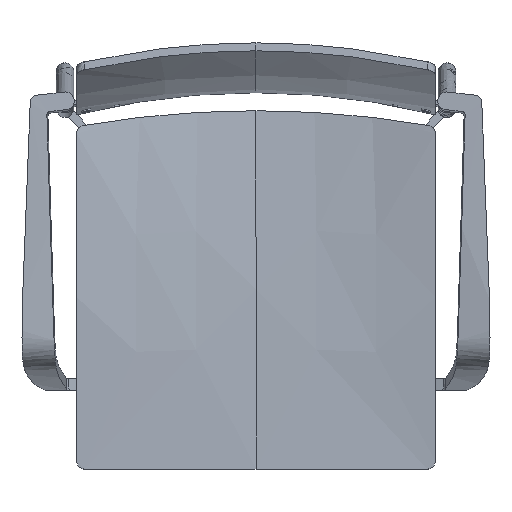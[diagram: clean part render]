
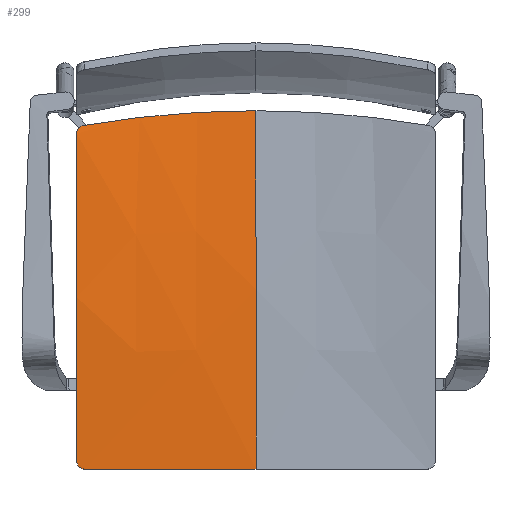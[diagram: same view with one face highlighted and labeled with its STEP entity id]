
A CAD part, top view. The second image highlights one B-rep face of the part: STEP entity #299.
In plain terms, the highlighted free-form (B-spline) face has degree [3, 3] with [6, 6] control points.
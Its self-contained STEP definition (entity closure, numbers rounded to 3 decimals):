
#132=B_SPLINE_SURFACE_WITH_KNOTS('',3,3,((#6712,#6713,#6714,#6715,#6716,
#6717),(#6718,#6719,#6720,#6721,#6722,#6723),(#6724,#6725,#6726,#6727,#6728,
#6729),(#6730,#6731,#6732,#6733,#6734,#6735),(#6736,#6737,#6738,#6739,#6740,
#6741),(#6742,#6743,#6744,#6745,#6746,#6747)),.UNSPECIFIED.,.F.,.F.,.F.,
(4,1,1,4),(4,1,1,4),(0.,145.508,291.016,436.96),
(224.697,299.522,374.346,449.395),
 .UNSPECIFIED.);
#299=ADVANCED_FACE('',(#431),#132,.T.);
#431=FACE_OUTER_BOUND('',#563,.T.);
#563=EDGE_LOOP('',(#1088,#1089,#1090,#1091,#1092,#1093));
#1088=ORIENTED_EDGE('',*,*,#1418,.T.);
#1089=ORIENTED_EDGE('',*,*,#1411,.F.);
#1090=ORIENTED_EDGE('',*,*,#1414,.T.);
#1091=ORIENTED_EDGE('',*,*,#1425,.T.);
#1092=ORIENTED_EDGE('',*,*,#1417,.T.);
#1093=ORIENTED_EDGE('',*,*,#1427,.T.);
#1411=EDGE_CURVE('',#1914,#1915,#1631,.T.);
#1414=EDGE_CURVE('',#1914,#1921,#1734,.T.);
#1417=EDGE_CURVE('',#1919,#1918,#1736,.T.);
#1418=EDGE_CURVE('',#1922,#1915,#1634,.T.);
#1425=EDGE_CURVE('',#1921,#1919,#1641,.T.);
#1427=EDGE_CURVE('',#1918,#1922,#1643,.T.);
#1631=B_SPLINE_CURVE_WITH_KNOTS('',3,(#6896,#6897,#6898,#6899,#6900,#6901),
 .UNSPECIFIED.,.F.,.F.,(4,1,1,4),(-436.523,-291.016,-145.508,
0.),.UNSPECIFIED.);
#1634=B_SPLINE_CURVE_WITH_KNOTS('',1,(#6918,#6919),.UNSPECIFIED.,.F.,.F.,
(2,2),(-435.,-222.5),.UNSPECIFIED.);
#1641=B_SPLINE_CURVE_WITH_KNOTS('',3,(#6950,#6951,#6952,#6953,#6954,#6955,
#6956,#6957,#6958,#6959,#6960,#6961,#6962,#6963,#6964,#6965,#6966,#6967,
#6968,#6969),.UNSPECIFIED.,.F.,.F.,(4,1,1,1,1,1,1,1,1,1,1,1,1,1,1,1,1,4),
(-14.341,-13.544,-12.725,-11.889,
-11.037,-10.171,-9.297,-8.416,
-7.533,-6.651,-5.773,-4.903,
-4.045,-3.2,-2.371,-1.56,
-0.77,0.),.UNSPECIFIED.);
#1643=B_SPLINE_CURVE_WITH_KNOTS('',3,(#6990,#6991,#6992,#6993,#6994,#6995,
#6996,#6997,#6998,#6999,#7000,#7001,#7002,#7003,#7004,#7005,#7006,#7007,
#7008,#7009),.UNSPECIFIED.,.F.,.F.,(4,1,1,1,1,1,1,1,1,1,1,1,1,1,1,1,1,4),
(0.,0.846,1.719,2.616,3.536,
4.474,5.428,6.393,7.365,8.339,
9.311,10.276,11.229,12.168,13.087,
13.985,14.857,15.703),.UNSPECIFIED.);
#1734=(
BOUNDED_CURVE()
B_SPLINE_CURVE(2,(#6907,#6908,#6909),.UNSPECIFIED.,.F.,.F.)
B_SPLINE_CURVE_WITH_KNOTS((3,3),(-226.906,-8.747),
 .UNSPECIFIED.)
CURVE()
GEOMETRIC_REPRESENTATION_ITEM()
RATIONAL_B_SPLINE_CURVE((1.,0.986,1.))
REPRESENTATION_ITEM('')
);
#1736=(
BOUNDED_CURVE()
B_SPLINE_CURVE(2,(#6915,#6916,#6917),.UNSPECIFIED.,.F.,.F.)
B_SPLINE_CURVE_WITH_KNOTS((3,3),(-417.08,-10.001),
 .UNSPECIFIED.)
CURVE()
GEOMETRIC_REPRESENTATION_ITEM()
RATIONAL_B_SPLINE_CURVE((1.,0.999,1.))
REPRESENTATION_ITEM('')
);
#1914=VERTEX_POINT('',#6872);
#1915=VERTEX_POINT('',#6873);
#1918=VERTEX_POINT('',#6876);
#1919=VERTEX_POINT('',#6877);
#1921=VERTEX_POINT('',#6879);
#1922=VERTEX_POINT('',#6880);
#6712=CARTESIAN_POINT('',(0.,-257.5,438.92));
#6713=CARTESIAN_POINT('',(-24.722,-257.5,438.92));
#6714=CARTESIAN_POINT('',(-74.167,-257.5,438.92));
#6715=CARTESIAN_POINT('',(-148.408,-257.5,438.92));
#6716=CARTESIAN_POINT('',(-197.926,-257.5,438.92));
#6717=CARTESIAN_POINT('',(-222.723,-257.5,438.92));
#6718=CARTESIAN_POINT('',(0.,-207.832,436.162));
#6719=CARTESIAN_POINT('',(-24.777,-207.832,436.162));
#6720=CARTESIAN_POINT('',(-74.33,-208.011,436.425));
#6721=CARTESIAN_POINT('',(-148.624,-208.818,437.601));
#6722=CARTESIAN_POINT('',(-198.035,-209.708,438.899));
#6723=CARTESIAN_POINT('',(-222.722,-210.238,439.672));
#6724=CARTESIAN_POINT('',(0.,-108.594,428.907));
#6725=CARTESIAN_POINT('',(-24.886,-108.594,428.907));
#6726=CARTESIAN_POINT('',(-74.656,-109.124,429.702));
#6727=CARTESIAN_POINT('',(-149.058,-111.501,433.268));
#6728=CARTESIAN_POINT('',(-198.254,-114.126,437.2));
#6729=CARTESIAN_POINT('',(-222.72,-115.691,439.543));
#6730=CARTESIAN_POINT('',(0.,39.995,412.796));
#6731=CARTESIAN_POINT('',(-25.049,39.995,412.796));
#6732=CARTESIAN_POINT('',(-75.146,38.966,414.415));
#6733=CARTESIAN_POINT('',(-149.709,34.355,421.67));
#6734=CARTESIAN_POINT('',(-198.582,29.265,429.675));
#6735=CARTESIAN_POINT('',(-222.717,26.231,434.444));
#6736=CARTESIAN_POINT('',(0.,138.607,398.59));
#6737=CARTESIAN_POINT('',(-25.158,138.607,398.59));
#6738=CARTESIAN_POINT('',(-75.473,137.266,400.772));
#6739=CARTESIAN_POINT('',(-150.143,131.254,410.553));
#6740=CARTESIAN_POINT('',(-198.801,124.619,421.343));
#6741=CARTESIAN_POINT('',(-222.715,120.665,427.774));
#6742=CARTESIAN_POINT('',(0.,187.851,390.612));
#6743=CARTESIAN_POINT('',(-25.213,187.851,390.612));
#6744=CARTESIAN_POINT('',(-75.637,186.359,393.079));
#6745=CARTESIAN_POINT('',(-150.361,179.667,404.14));
#6746=CARTESIAN_POINT('',(-198.911,172.284,416.343));
#6747=CARTESIAN_POINT('',(-222.714,167.884,423.616));
#6872=CARTESIAN_POINT('',(0.,187.409,390.683));
#6873=CARTESIAN_POINT('',(0.,-257.5,438.92));
#6876=CARTESIAN_POINT('',(-222.5,-247.5,439.066));
#6877=CARTESIAN_POINT('',(-222.5,159.145,424.316));
#6879=CARTESIAN_POINT('',(-214.241,168.992,421.123));
#6880=CARTESIAN_POINT('',(-212.5,-257.5,438.92));
#6896=CARTESIAN_POINT('',(0.,187.409,390.683));
#6897=CARTESIAN_POINT('',(0.,138.312,398.633));
#6898=CARTESIAN_POINT('',(0.,39.846,412.812));
#6899=CARTESIAN_POINT('',(0.,-108.594,428.907));
#6900=CARTESIAN_POINT('',(0.,-207.832,436.162));
#6901=CARTESIAN_POINT('',(0.,-257.5,438.92));
#6907=CARTESIAN_POINT('',(0.,187.409,390.683));
#6908=CARTESIAN_POINT('',(-110.075,187.409,390.683));
#6909=CARTESIAN_POINT('',(-214.241,168.992,421.123));
#6915=CARTESIAN_POINT('',(-222.5,159.145,424.316));
#6916=CARTESIAN_POINT('',(-222.5,-43.812,441.779));
#6917=CARTESIAN_POINT('',(-222.5,-247.5,439.066));
#6918=CARTESIAN_POINT('',(-212.5,-257.5,438.92));
#6919=CARTESIAN_POINT('',(0.,-257.5,438.92));
#6950=CARTESIAN_POINT('',(-214.241,168.992,421.123));
#6951=CARTESIAN_POINT('',(-214.493,168.947,421.196));
#6952=CARTESIAN_POINT('',(-214.999,168.838,421.346));
#6953=CARTESIAN_POINT('',(-215.751,168.612,421.576));
#6954=CARTESIAN_POINT('',(-216.499,168.322,421.811));
#6955=CARTESIAN_POINT('',(-217.236,167.965,422.05));
#6956=CARTESIAN_POINT('',(-217.951,167.542,422.289));
#6957=CARTESIAN_POINT('',(-218.637,167.055,422.526));
#6958=CARTESIAN_POINT('',(-219.286,166.506,422.759));
#6959=CARTESIAN_POINT('',(-219.888,165.901,422.984));
#6960=CARTESIAN_POINT('',(-220.438,165.246,423.198));
#6961=CARTESIAN_POINT('',(-220.929,164.547,423.399));
#6962=CARTESIAN_POINT('',(-221.357,163.813,423.585));
#6963=CARTESIAN_POINT('',(-221.718,163.052,423.755));
#6964=CARTESIAN_POINT('',(-222.01,162.274,423.906));
#6965=CARTESIAN_POINT('',(-222.233,161.486,424.038));
#6966=CARTESIAN_POINT('',(-222.389,160.698,424.15));
#6967=CARTESIAN_POINT('',(-222.48,159.918,424.243));
#6968=CARTESIAN_POINT('',(-222.5,159.4,424.294));
#6969=CARTESIAN_POINT('',(-222.5,159.145,424.316));
#6990=CARTESIAN_POINT('',(-222.5,-247.5,439.066));
#6991=CARTESIAN_POINT('',(-222.5,-247.782,439.062));
#6992=CARTESIAN_POINT('',(-222.476,-248.355,439.054));
#6993=CARTESIAN_POINT('',(-222.364,-249.221,439.042));
#6994=CARTESIAN_POINT('',(-222.171,-250.097,439.029));
#6995=CARTESIAN_POINT('',(-221.892,-250.974,439.015));
#6996=CARTESIAN_POINT('',(-221.526,-251.838,439.002));
#6997=CARTESIAN_POINT('',(-221.073,-252.677,438.989));
#6998=CARTESIAN_POINT('',(-220.535,-253.479,438.977));
#6999=CARTESIAN_POINT('',(-219.918,-254.229,438.965));
#7000=CARTESIAN_POINT('',(-219.229,-254.918,438.955));
#7001=CARTESIAN_POINT('',(-218.479,-255.535,438.946));
#7002=CARTESIAN_POINT('',(-217.678,-256.073,438.938));
#7003=CARTESIAN_POINT('',(-216.838,-256.526,438.932));
#7004=CARTESIAN_POINT('',(-215.974,-256.892,438.927));
#7005=CARTESIAN_POINT('',(-215.098,-257.171,438.924));
#7006=CARTESIAN_POINT('',(-214.221,-257.364,438.922));
#7007=CARTESIAN_POINT('',(-213.355,-257.476,438.921));
#7008=CARTESIAN_POINT('',(-212.782,-257.5,438.92));
#7009=CARTESIAN_POINT('',(-212.5,-257.5,438.92));
